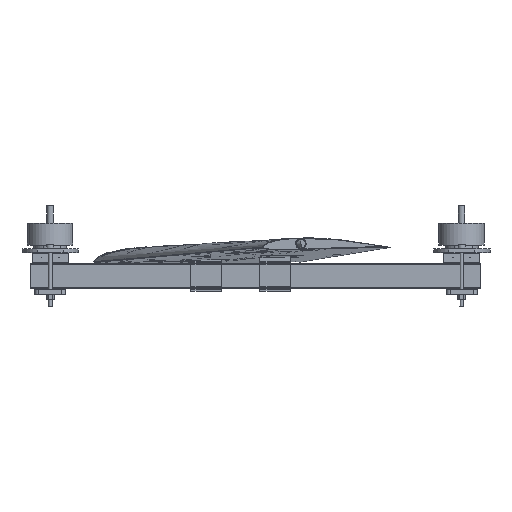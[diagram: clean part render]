
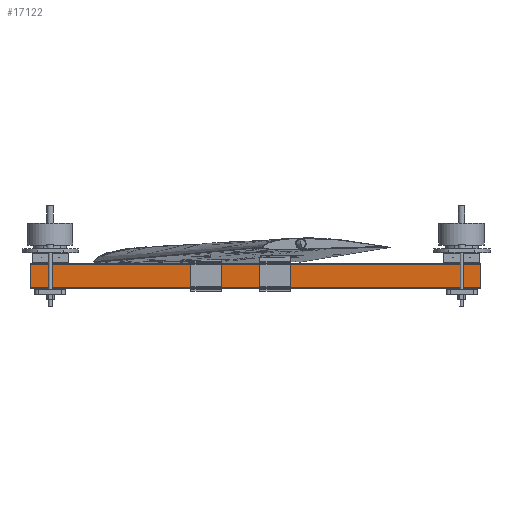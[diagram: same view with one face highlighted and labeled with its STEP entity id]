
A CAD part, front view. The second image highlights one B-rep face of the part: STEP entity #17122.
In plain terms, the highlighted planar face has unit normal (0, -1, 0).
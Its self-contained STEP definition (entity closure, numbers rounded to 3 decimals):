
#17052 = EDGE_CURVE('',#17053,#17055,#17057,.T.);
#17053 = VERTEX_POINT('',#17054);
#17054 = CARTESIAN_POINT('',(220.,-280.,-20.));
#17055 = VERTEX_POINT('',#17056);
#17056 = CARTESIAN_POINT('',(220.,-280.,0.));
#17057 = LINE('',#17058,#17059);
#17058 = CARTESIAN_POINT('',(220.,-280.,-20.));
#17059 = VECTOR('',#17060,1.);
#17060 = DIRECTION('',(0.,0.,1.));
#17122 = ADVANCED_FACE('',(#17123),#17148,.F.);
#17123 = FACE_BOUND('',#17124,.F.);
#17124 = EDGE_LOOP('',(#17125,#17133,#17134,#17142));
#17125 = ORIENTED_EDGE('',*,*,#17126,.F.);
#17126 = EDGE_CURVE('',#17053,#17127,#17129,.T.);
#17127 = VERTEX_POINT('',#17128);
#17128 = CARTESIAN_POINT('',(570.,-280.,-20.));
#17129 = LINE('',#17130,#17131);
#17130 = CARTESIAN_POINT('',(220.,-280.,-20.));
#17131 = VECTOR('',#17132,1.);
#17132 = DIRECTION('',(1.,0.,0.));
#17133 = ORIENTED_EDGE('',*,*,#17052,.T.);
#17134 = ORIENTED_EDGE('',*,*,#17135,.T.);
#17135 = EDGE_CURVE('',#17055,#17136,#17138,.T.);
#17136 = VERTEX_POINT('',#17137);
#17137 = CARTESIAN_POINT('',(570.,-280.,0.));
#17138 = LINE('',#17139,#17140);
#17139 = CARTESIAN_POINT('',(220.,-280.,0.));
#17140 = VECTOR('',#17141,1.);
#17141 = DIRECTION('',(1.,0.,0.));
#17142 = ORIENTED_EDGE('',*,*,#17143,.F.);
#17143 = EDGE_CURVE('',#17127,#17136,#17144,.T.);
#17144 = LINE('',#17145,#17146);
#17145 = CARTESIAN_POINT('',(570.,-280.,-20.));
#17146 = VECTOR('',#17147,1.);
#17147 = DIRECTION('',(0.,0.,1.));
#17148 = PLANE('',#17149);
#17149 = AXIS2_PLACEMENT_3D('',#17150,#17151,#17152);
#17150 = CARTESIAN_POINT('',(220.,-280.,-20.));
#17151 = DIRECTION('',(0.,1.,0.));
#17152 = DIRECTION('',(0.,0.,1.));
